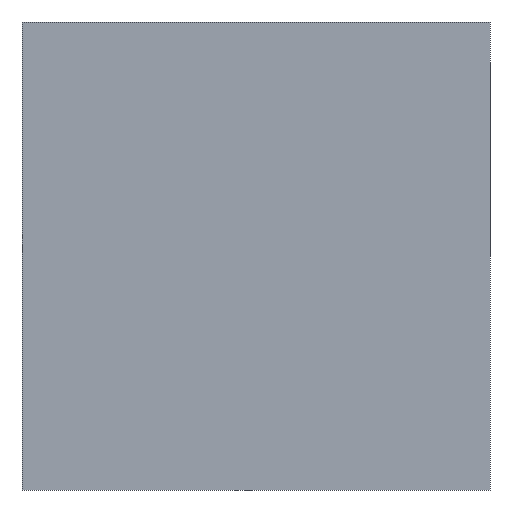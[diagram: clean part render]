
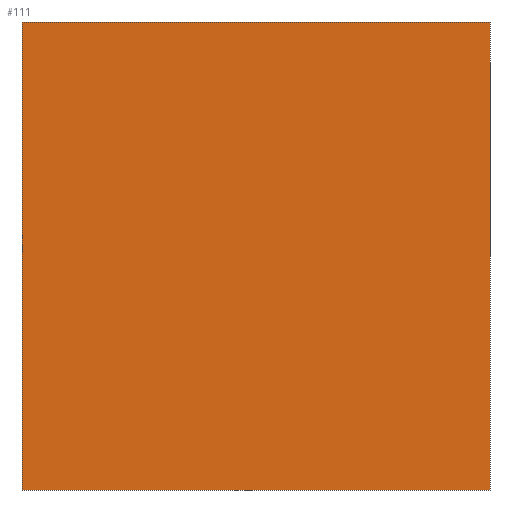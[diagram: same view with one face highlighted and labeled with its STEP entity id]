
A CAD part, front view. The second image highlights one B-rep face of the part: STEP entity #111.
In plain terms, the highlighted planar face has unit normal (0, -1, 0).
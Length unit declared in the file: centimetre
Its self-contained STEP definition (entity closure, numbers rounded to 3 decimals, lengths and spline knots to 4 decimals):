
#3 = DIRECTION ( 'NONE',  ( 0., 1., 0. ) ) ;
#10 = VERTEX_POINT ( 'NONE', #63 ) ;
#41 = EDGE_LOOP ( 'NONE', ( #215, #364, #431, #113 ) ) ;
#62 = VECTOR ( 'NONE', #74, 100. ) ;
#63 = CARTESIAN_POINT ( 'NONE',  ( 0., 0., 0. ) ) ;
#74 = DIRECTION ( 'NONE',  ( 0., 0., -1. ) ) ;
#83 = CARTESIAN_POINT ( 'NONE',  ( 1000., 0., 1000. ) ) ;
#111 = ADVANCED_FACE ( 'NONE', ( #132 ), #360, .F. ) ;
#113 = ORIENTED_EDGE ( 'NONE', *, *, #552, .T. ) ;
#115 = VECTOR ( 'NONE', #435, 100. ) ;
#124 = VERTEX_POINT ( 'NONE', #440 ) ;
#132 = FACE_OUTER_BOUND ( 'NONE', #41, .T. ) ;
#152 = DIRECTION ( 'NONE',  ( 1., 0., 0. ) ) ;
#173 = EDGE_CURVE ( 'NONE', #124, #459, #396, .T. ) ;
#179 = DIRECTION ( 'NONE',  ( 0., 0., 1. ) ) ;
#210 = EDGE_CURVE ( 'NONE', #10, #459, #321, .T. ) ;
#215 = ORIENTED_EDGE ( 'NONE', *, *, #210, .T. ) ;
#243 = CARTESIAN_POINT ( 'NONE',  ( 0., 0., 1000. ) ) ;
#253 = CARTESIAN_POINT ( 'NONE',  ( 0., 0., 1000. ) ) ;
#296 = LINE ( 'NONE', #243, #436 ) ;
#321 = LINE ( 'NONE', #457, #354 ) ;
#329 = EDGE_CURVE ( 'NONE', #566, #124, #296, .T. ) ;
#354 = VECTOR ( 'NONE', #498, 100. ) ;
#360 = PLANE ( 'NONE',  #468 ) ;
#363 = CARTESIAN_POINT ( 'NONE',  ( 1000., 0., 0. ) ) ;
#364 = ORIENTED_EDGE ( 'NONE', *, *, #173, .F. ) ;
#396 = LINE ( 'NONE', #83, #115 ) ;
#408 = CARTESIAN_POINT ( 'NONE',  ( 0., 0., 1000. ) ) ;
#431 = ORIENTED_EDGE ( 'NONE', *, *, #329, .F. ) ;
#435 = DIRECTION ( 'NONE',  ( 0., 0., -1. ) ) ;
#436 = VECTOR ( 'NONE', #152, 100. ) ;
#440 = CARTESIAN_POINT ( 'NONE',  ( 1000., 0., 1000. ) ) ;
#457 = CARTESIAN_POINT ( 'NONE',  ( 0., 0., 0. ) ) ;
#459 = VERTEX_POINT ( 'NONE', #363 ) ;
#468 = AXIS2_PLACEMENT_3D ( 'NONE', #408, #3, #179 ) ;
#482 = CARTESIAN_POINT ( 'NONE',  ( 0., 0., 1000. ) ) ;
#498 = DIRECTION ( 'NONE',  ( 1., 0., 0. ) ) ;
#519 = LINE ( 'NONE', #482, #62 ) ;
#552 = EDGE_CURVE ( 'NONE', #566, #10, #519, .T. ) ;
#566 = VERTEX_POINT ( 'NONE', #253 ) ;
